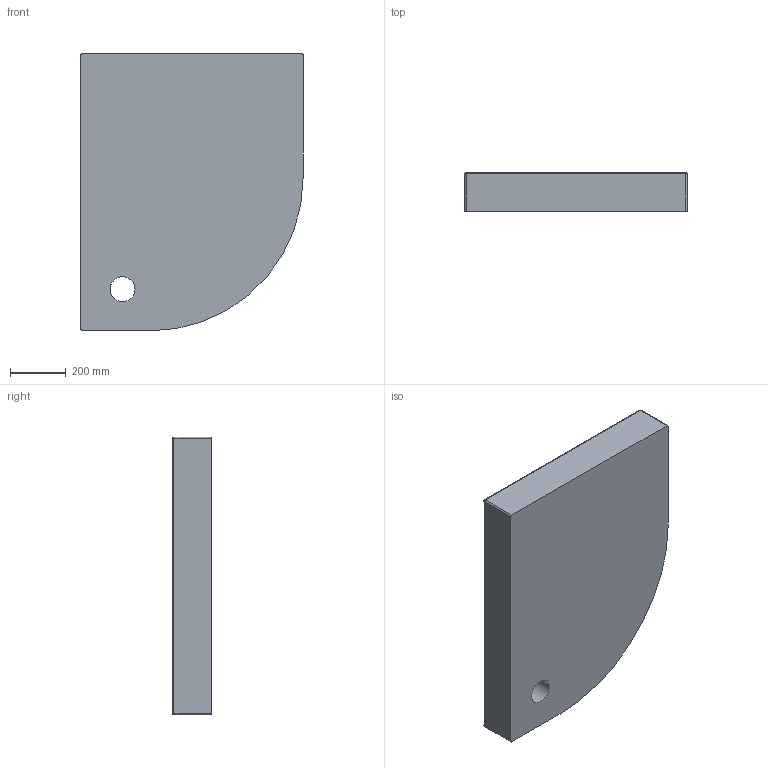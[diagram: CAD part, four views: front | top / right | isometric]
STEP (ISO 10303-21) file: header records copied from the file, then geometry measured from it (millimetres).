
FILE_DESCRIPTION(/* description */ (''),/* implementation_level */ '2;1');
FILE_NAME(/* name */ 'c:\worker\convert-fusion-r09\tmp\job-1\54\output\files\67b76b05-22b8-49c9-bb07-c3e9be98b209\83f68cdf-f659-4a20-95f9-10f46d130cff.stp',/* time_stamp */ '2020-01-03T09:01:11+00:00',/* author */ (''),/* organization */ (''),/* preprocessor_version */ 'ST-DEVELOPER v18',/* originating_system */ 'Autodesk Translation Framework v8.12.0.6',/* authorisation */ '');
FILE_SCHEMA (('AUTOMOTIVE_DESIGN { 1 0 10303 214 3 1 1 }'));
Length unit declared in the file: millimetre
Products named in the file (1): Riverside 80/100/L
Bounding box: 800 x 140 x 1000 mm (x, y, z)
Volume: 88374667.9 mm3; surface area: 2010166.4 mm2
Topology: 1 solids, 1 shells, 47 faces, 103 edges, 59 vertices
Faces by surface type: cylinder 21, plane 11, bspline 7, torus 5, sphere 3
Full cylindrical faces by diameter (mm): 90 x1
Entity records: 2007 total; most frequent: CARTESIAN_POINT 936, DIRECTION 231, ORIENTED_EDGE 206, EDGE_CURVE 103, AXIS2_PLACEMENT_3D 93, VERTEX_POINT 59, EDGE_LOOP 50, FACE_OUTER_BOUND 47
